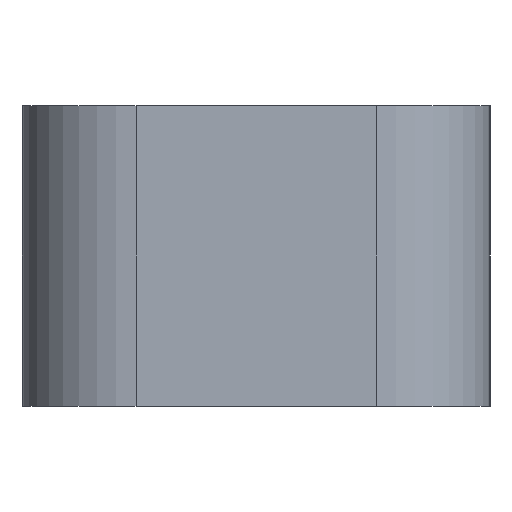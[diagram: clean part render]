
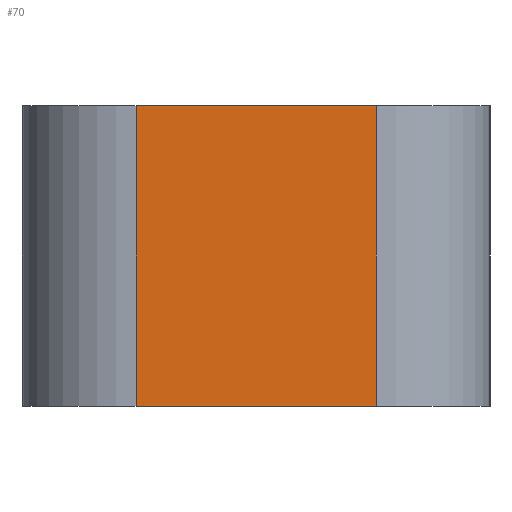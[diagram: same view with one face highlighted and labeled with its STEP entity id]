
A CAD part, left-side view. The second image highlights one B-rep face of the part: STEP entity #70.
In plain terms, the highlighted planar face has unit normal (-1, 0, 0).
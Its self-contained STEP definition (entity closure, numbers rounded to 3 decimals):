
#34=AXIS2_PLACEMENT_3D('Plane Axis2P3D',#31,#32,#33) ;
#31=CARTESIAN_POINT('Axis2P3D Location',(-230.85,-101.894,5.)) ;
#36=CARTESIAN_POINT('Line Origine',(-230.85,-99.894,5.)) ;
#40=CARTESIAN_POINT('Vertex',(-230.85,-97.894,5.)) ;
#42=CARTESIAN_POINT('Vertex',(-230.85,-101.894,5.)) ;
#45=CARTESIAN_POINT('Line Origine',(-230.85,-97.894,2.5)) ;
#49=CARTESIAN_POINT('Vertex',(-230.85,-97.894,0.)) ;
#52=CARTESIAN_POINT('Line Origine',(-230.85,-99.894,0.)) ;
#56=CARTESIAN_POINT('Vertex',(-230.85,-101.894,0.)) ;
#59=CARTESIAN_POINT('Line Origine',(-230.85,-101.894,2.5)) ;
#32=DIRECTION('Axis2P3D Direction',(-1.,0.,0.)) ;
#33=DIRECTION('Axis2P3D XDirection',(0.,1.,0.)) ;
#37=DIRECTION('Vector Direction',(0.,-1.,0.)) ;
#46=DIRECTION('Vector Direction',(0.,0.,-1.)) ;
#53=DIRECTION('Vector Direction',(0.,1.,0.)) ;
#60=DIRECTION('Vector Direction',(0.,0.,-1.)) ;
#38=VECTOR('Line Direction',#37,1.) ;
#47=VECTOR('Line Direction',#46,1.) ;
#54=VECTOR('Line Direction',#53,1.) ;
#61=VECTOR('Line Direction',#60,1.) ;
#65=ORIENTED_EDGE('',*,*,#44,.F.) ;
#66=ORIENTED_EDGE('',*,*,#51,.T.) ;
#67=ORIENTED_EDGE('',*,*,#58,.F.) ;
#68=ORIENTED_EDGE('',*,*,#63,.F.) ;
#70=ADVANCED_FACE('\X2\BCF8CCB4\X0\2',(#69),#35,.T.) ;
#44=EDGE_CURVE('',#41,#43,#39,.T.) ;
#51=EDGE_CURVE('',#41,#50,#48,.T.) ;
#58=EDGE_CURVE('',#57,#50,#55,.T.) ;
#63=EDGE_CURVE('',#43,#57,#62,.T.) ;
#64=EDGE_LOOP('',(#65,#66,#67,#68)) ;
#69=FACE_OUTER_BOUND('',#64,.T.) ;
#39=LINE('Line',#36,#38) ;
#48=LINE('Line',#45,#47) ;
#55=LINE('Line',#52,#54) ;
#62=LINE('Line',#59,#61) ;
#35=PLANE('',#34) ;
#41=VERTEX_POINT('',#40) ;
#43=VERTEX_POINT('',#42) ;
#50=VERTEX_POINT('',#49) ;
#57=VERTEX_POINT('',#56) ;
